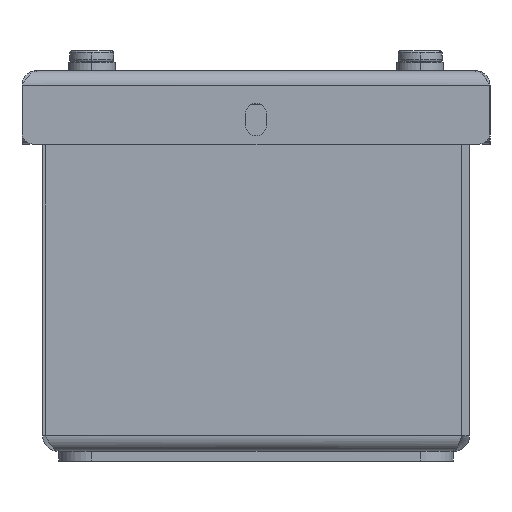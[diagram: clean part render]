
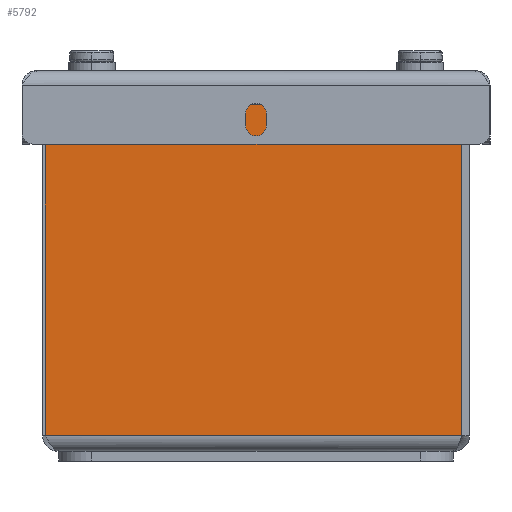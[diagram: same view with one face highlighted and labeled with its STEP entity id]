
A CAD part, left-side view. The second image highlights one B-rep face of the part: STEP entity #5792.
In plain terms, the highlighted planar face has unit normal (-1, 0, 0).
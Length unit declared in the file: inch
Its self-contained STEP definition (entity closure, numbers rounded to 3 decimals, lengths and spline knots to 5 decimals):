
#276=DIRECTION('',(0.,-1.,0.));
#277=VECTOR('',#276,3.168);
#278=CARTESIAN_POINT('',(0.,3.228,0.12));
#279=LINE('',#278,#277);
#1735=DIRECTION('',(0.,-1.,0.));
#1736=VECTOR('',#1735,2.47175);
#1737=CARTESIAN_POINT('',(0.,3.228,2.638));
#1738=LINE('',#1737,#1736);
#1826=DIRECTION('',(0.,0.,1.));
#1827=VECTOR('',#1826,2.518);
#1828=CARTESIAN_POINT('',(0.,3.228,0.12));
#1829=LINE('',#1828,#1827);
#1833=DIRECTION('',(0.,0.,1.));
#1834=VECTOR('',#1833,0.042);
#1835=CARTESIAN_POINT('',(0.,0.75625,2.638));
#1836=LINE('',#1835,#1834);
#1840=DIRECTION('',(0.,1.,0.));
#1841=VECTOR('',#1840,0.65125);
#1842=CARTESIAN_POINT('',(0.,0.105,2.68));
#1843=LINE('',#1842,#1841);
#1847=CARTESIAN_POINT('',(0.,0.105,2.635));
#1848=DIRECTION('',(-1.,0.,0.));
#1849=DIRECTION('',(0.,-1.,0.));
#1850=AXIS2_PLACEMENT_3D('',#1847,#1848,#1849);
#1897=DIRECTION('',(0.,0.,1.));
#1898=VECTOR('',#1897,2.515);
#1899=CARTESIAN_POINT('',(0.,0.06,0.12));
#1900=LINE('',#1899,#1898);
#3580=CARTESIAN_POINT('',(0.,0.75625,2.638));
#3581=CARTESIAN_POINT('',(0.,0.75625,2.68));
#3582=VERTEX_POINT('',#3580);
#3583=VERTEX_POINT('',#3581);
#3708=CARTESIAN_POINT('',(0.,3.228,0.12));
#3709=CARTESIAN_POINT('',(0.,3.228,2.638));
#3710=VERTEX_POINT('',#3708);
#3711=VERTEX_POINT('',#3709);
#3772=CARTESIAN_POINT('',(0.,0.06,2.635));
#3773=CARTESIAN_POINT('',(0.,0.105,2.68));
#3774=VERTEX_POINT('',#3772);
#3775=VERTEX_POINT('',#3773);
#3780=CARTESIAN_POINT('',(0.,0.06,0.12));
#3781=VERTEX_POINT('',#3780);
#5774=CARTESIAN_POINT('',(0.,3.25,0.));
#5775=DIRECTION('',(-1.,0.,0.));
#5776=DIRECTION('',(0.,-1.,0.));
#5777=AXIS2_PLACEMENT_3D('',#5774,#5775,#5776);
#5778=PLANE('',#5777);
#5779=ORIENTED_EDGE('',*,*,#5331,.T.);
#5780=ORIENTED_EDGE('',*,*,#5764,.T.);
#5782=ORIENTED_EDGE('',*,*,#5781,.T.);
#5784=ORIENTED_EDGE('',*,*,#5783,.F.);
#5786=ORIENTED_EDGE('',*,*,#5785,.F.);
#5788=ORIENTED_EDGE('',*,*,#5787,.F.);
#5789=ORIENTED_EDGE('',*,*,#4178,.F.);
#5790=EDGE_LOOP('',(#5779,#5780,#5782,#5784,#5786,#5788,#5789));
#5791=FACE_OUTER_BOUND('',#5790,.F.);
#1851=CIRCLE('',#1850,0.045);
#4178=EDGE_CURVE('',#3710,#3781,#279,.T.);
#5331=EDGE_CURVE('',#3710,#3711,#1829,.T.);
#5764=EDGE_CURVE('',#3711,#3582,#1738,.T.);
#5781=EDGE_CURVE('',#3582,#3583,#1836,.T.);
#5783=EDGE_CURVE('',#3775,#3583,#1843,.T.);
#5785=EDGE_CURVE('',#3774,#3775,#1851,.T.);
#5787=EDGE_CURVE('',#3781,#3774,#1900,.T.);
#5792=ADVANCED_FACE('',(#5791),#5778,.T.);
